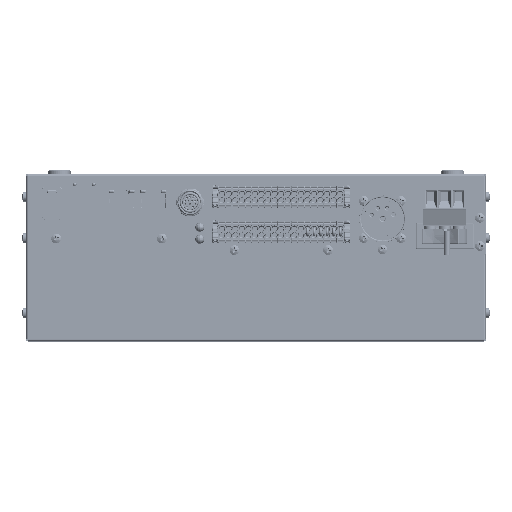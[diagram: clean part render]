
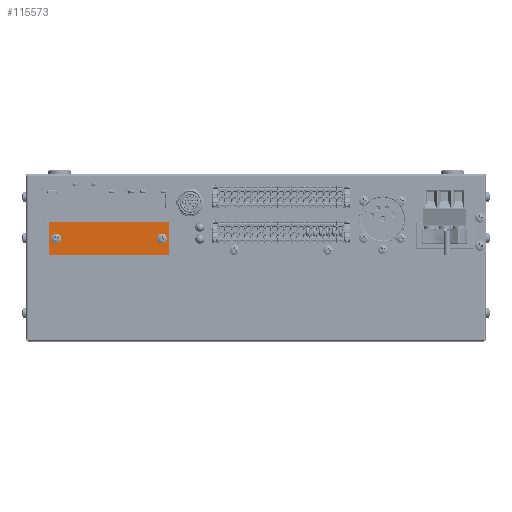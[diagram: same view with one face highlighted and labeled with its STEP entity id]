
A CAD part, top view. The second image highlights one B-rep face of the part: STEP entity #115573.
In plain terms, the highlighted planar face has unit normal (0, 0, 1).
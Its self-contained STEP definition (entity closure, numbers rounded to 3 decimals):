
#4970 = EDGE_CURVE ( 'NONE', #704113, #160234, #354300, .T. ) ;
#8161 = CARTESIAN_POINT ( 'NONE',  ( 67.8, 10.15, 0.3 ) ) ;
#10042 = ORIENTED_EDGE ( 'NONE', *, *, #372208, .F. ) ;
#18159 = CARTESIAN_POINT ( 'NONE',  ( 8.5, 1.15, 0.3 ) ) ;
#18457 = CARTESIAN_POINT ( 'NONE',  ( 7.5, 2.15, 0.3 ) ) ;
#70438 = DIRECTION ( 'NONE',  ( 0., 0., 1. ) ) ;
#86422 = CIRCLE ( 'NONE', #681063, 1. ) ;
#99572 = AXIS2_PLACEMENT_3D ( 'NONE', #331071, #791724, #436380 ) ;
#114328 = ORIENTED_EDGE ( 'NONE', *, *, #132160, .T. ) ;
#114654 = CIRCLE ( 'NONE', #663640, 1. ) ;
#115573 = ADVANCED_FACE ( 'NONE', ( #538321, #222383, #432992 ), #196507, .F. ) ;
#116130 = CIRCLE ( 'NONE', #397984, 1.6 ) ;
#123316 = VECTOR ( 'NONE', #504415, 1000. ) ;
#131209 = DIRECTION ( 'NONE',  ( 1., 0., 0. ) ) ;
#132160 = EDGE_CURVE ( 'NONE', #735097, #638831, #623459, .T. ) ;
#136180 = CIRCLE ( 'NONE', #176082, 1. ) ;
#137594 = EDGE_CURVE ( 'NONE', #589393, #597604, #392857, .T. ) ;
#146074 = EDGE_CURVE ( 'NONE', #499156, #170701, #116130, .T. ) ;
#147659 = CARTESIAN_POINT ( 'NONE',  ( 13., 10.15, 0.3 ) ) ;
#149912 = DIRECTION ( 'NONE',  ( 1., 0., 0. ) ) ;
#160234 = VERTEX_POINT ( 'NONE', #614823 ) ;
#170355 = DIRECTION ( 'NONE',  ( -1., 0., 0. ) ) ;
#170701 = VERTEX_POINT ( 'NONE', #195934 ) ;
#176082 = AXIS2_PLACEMENT_3D ( 'NONE', #430739, #470149, #615558 ) ;
#195934 = CARTESIAN_POINT ( 'NONE',  ( 9.8, 10.15, 0.3 ) ) ;
#196507 = PLANE ( 'NONE',  #406464 ) ;
#222383 = FACE_BOUND ( 'NONE', #690246, .T. ) ;
#244534 = ORIENTED_EDGE ( 'NONE', *, *, #146074, .F. ) ;
#245059 = EDGE_CURVE ( 'NONE', #160234, #704113, #284769, .T. ) ;
#249262 = CARTESIAN_POINT ( 'NONE',  ( 11.4, 10.15, 0.3 ) ) ;
#273150 = EDGE_CURVE ( 'NONE', #756450, #735097, #320211, .T. ) ;
#284769 = CIRCLE ( 'NONE', #516441, 1.6 ) ;
#286335 = CARTESIAN_POINT ( 'NONE',  ( 11.4, 10.15, 0.3 ) ) ;
#293362 = CARTESIAN_POINT ( 'NONE',  ( 70.7, 19.15, 0.3 ) ) ;
#304786 = EDGE_CURVE ( 'NONE', #663074, #756450, #114654, .T. ) ;
#320211 = LINE ( 'NONE', #741501, #123316 ) ;
#327001 = CARTESIAN_POINT ( 'NONE',  ( 7.5, 19.15, 0.3 ) ) ;
#331071 = CARTESIAN_POINT ( 'NONE',  ( 70.7, 18.15, 0.3 ) ) ;
#332819 = ORIENTED_EDGE ( 'NONE', *, *, #540574, .T. ) ;
#341595 = DIRECTION ( 'NONE',  ( 0., 0., 1. ) ) ;
#354300 = CIRCLE ( 'NONE', #379388, 1.6 ) ;
#365669 = ORIENTED_EDGE ( 'NONE', *, *, #137594, .T. ) ;
#366842 = ORIENTED_EDGE ( 'NONE', *, *, #371281, .T. ) ;
#370386 = EDGE_CURVE ( 'NONE', #768328, #663074, #751833, .T. ) ;
#371281 = EDGE_CURVE ( 'NONE', #638831, #553152, #484396, .T. ) ;
#372208 = EDGE_CURVE ( 'NONE', #170701, #499156, #602570, .T. ) ;
#379388 = AXIS2_PLACEMENT_3D ( 'NONE', #678578, #705072, #665041 ) ;
#392857 = LINE ( 'NONE', #327001, #450250 ) ;
#394663 = ORIENTED_EDGE ( 'NONE', *, *, #370386, .T. ) ;
#397984 = AXIS2_PLACEMENT_3D ( 'NONE', #249262, #341595, #170355 ) ;
#405523 = DIRECTION ( 'NONE',  ( -1., 0., 0. ) ) ;
#406464 = AXIS2_PLACEMENT_3D ( 'NONE', #433573, #472987, #131209 ) ;
#411367 = DIRECTION ( 'NONE',  ( 1., 0., 0. ) ) ;
#417301 = EDGE_CURVE ( 'NONE', #553152, #589393, #86422, .T. ) ;
#430739 = CARTESIAN_POINT ( 'NONE',  ( 8.5, 2.15, 0.3 ) ) ;
#432992 = FACE_OUTER_BOUND ( 'NONE', #600819, .T. ) ;
#433523 = EDGE_LOOP ( 'NONE', ( #549967, #798122 ) ) ;
#433573 = CARTESIAN_POINT ( 'NONE',  ( 39.6, 10.15, 0.3 ) ) ;
#436380 = DIRECTION ( 'NONE',  ( 1., 0., 0. ) ) ;
#450250 = VECTOR ( 'NONE', #722385, 1000. ) ;
#465557 = CARTESIAN_POINT ( 'NONE',  ( 71.7, 18.15, 0.3 ) ) ;
#470149 = DIRECTION ( 'NONE',  ( 0., 0., 1. ) ) ;
#472987 = DIRECTION ( 'NONE',  ( 0., 0., -1. ) ) ;
#484396 = LINE ( 'NONE', #708049, #684592 ) ;
#499156 = VERTEX_POINT ( 'NONE', #147659 ) ;
#504415 = DIRECTION ( 'NONE',  ( 0., 1., 0. ) ) ;
#508208 = DIRECTION ( 'NONE',  ( 0., 0., 1. ) ) ;
#516441 = AXIS2_PLACEMENT_3D ( 'NONE', #8161, #508208, #640090 ) ;
#516674 = CARTESIAN_POINT ( 'NONE',  ( 8.5, 18.15, 0.3 ) ) ;
#519666 = CARTESIAN_POINT ( 'NONE',  ( 71.7, 2.15, 0.3 ) ) ;
#528209 = DIRECTION ( 'NONE',  ( 1., 0., 0. ) ) ;
#538321 = FACE_BOUND ( 'NONE', #433523, .T. ) ;
#540574 = EDGE_CURVE ( 'NONE', #597604, #768328, #136180, .T. ) ;
#549967 = ORIENTED_EDGE ( 'NONE', *, *, #245059, .F. ) ;
#551183 = CARTESIAN_POINT ( 'NONE',  ( 70.7, 1.15, 0.3 ) ) ;
#553152 = VERTEX_POINT ( 'NONE', #640638 ) ;
#567729 = CARTESIAN_POINT ( 'NONE',  ( 71.7, 1.15, 0.3 ) ) ;
#589393 = VERTEX_POINT ( 'NONE', #730709 ) ;
#597604 = VERTEX_POINT ( 'NONE', #18457 ) ;
#600819 = EDGE_LOOP ( 'NONE', ( #715489, #114328, #366842, #697410, #365669, #332819, #394663, #613065 ) ) ;
#602570 = CIRCLE ( 'NONE', #773707, 1.6 ) ;
#613065 = ORIENTED_EDGE ( 'NONE', *, *, #304786, .T. ) ;
#614823 = CARTESIAN_POINT ( 'NONE',  ( 66.2, 10.15, 0.3 ) ) ;
#615558 = DIRECTION ( 'NONE',  ( 1., 0., 0. ) ) ;
#623459 = CIRCLE ( 'NONE', #99572, 1. ) ;
#638831 = VERTEX_POINT ( 'NONE', #293362 ) ;
#640090 = DIRECTION ( 'NONE',  ( -1., 0., 0. ) ) ;
#640638 = CARTESIAN_POINT ( 'NONE',  ( 8.5, 19.15, 0.3 ) ) ;
#663074 = VERTEX_POINT ( 'NONE', #551183 ) ;
#663640 = AXIS2_PLACEMENT_3D ( 'NONE', #702383, #70438, #149912 ) ;
#665041 = DIRECTION ( 'NONE',  ( -1., 0., 0. ) ) ;
#678578 = CARTESIAN_POINT ( 'NONE',  ( 67.8, 10.15, 0.3 ) ) ;
#681063 = AXIS2_PLACEMENT_3D ( 'NONE', #516674, #779689, #411367 ) ;
#684592 = VECTOR ( 'NONE', #405523, 1000. ) ;
#690246 = EDGE_LOOP ( 'NONE', ( #10042, #244534 ) ) ;
#697410 = ORIENTED_EDGE ( 'NONE', *, *, #417301, .T. ) ;
#702383 = CARTESIAN_POINT ( 'NONE',  ( 70.7, 2.15, 0.3 ) ) ;
#704113 = VERTEX_POINT ( 'NONE', #814173 ) ;
#705072 = DIRECTION ( 'NONE',  ( 0., 0., 1. ) ) ;
#708049 = CARTESIAN_POINT ( 'NONE',  ( 71.7, 19.15, 0.3 ) ) ;
#715489 = ORIENTED_EDGE ( 'NONE', *, *, #273150, .T. ) ;
#722385 = DIRECTION ( 'NONE',  ( 0., -1., 0. ) ) ;
#730709 = CARTESIAN_POINT ( 'NONE',  ( 7.5, 18.15, 0.3 ) ) ;
#735097 = VERTEX_POINT ( 'NONE', #465557 ) ;
#741501 = CARTESIAN_POINT ( 'NONE',  ( 71.7, 19.15, 0.3 ) ) ;
#751833 = LINE ( 'NONE', #567729, #758383 ) ;
#756450 = VERTEX_POINT ( 'NONE', #519666 ) ;
#758383 = VECTOR ( 'NONE', #528209, 1000. ) ;
#768328 = VERTEX_POINT ( 'NONE', #18159 ) ;
#771660 = DIRECTION ( 'NONE',  ( 0., 0., 1. ) ) ;
#773465 = DIRECTION ( 'NONE',  ( -1., 0., 0. ) ) ;
#773707 = AXIS2_PLACEMENT_3D ( 'NONE', #286335, #771660, #773465 ) ;
#779689 = DIRECTION ( 'NONE',  ( 0., 0., 1. ) ) ;
#791724 = DIRECTION ( 'NONE',  ( 0., 0., 1. ) ) ;
#798122 = ORIENTED_EDGE ( 'NONE', *, *, #4970, .F. ) ;
#814173 = CARTESIAN_POINT ( 'NONE',  ( 69.4, 10.15, 0.3 ) ) ;
